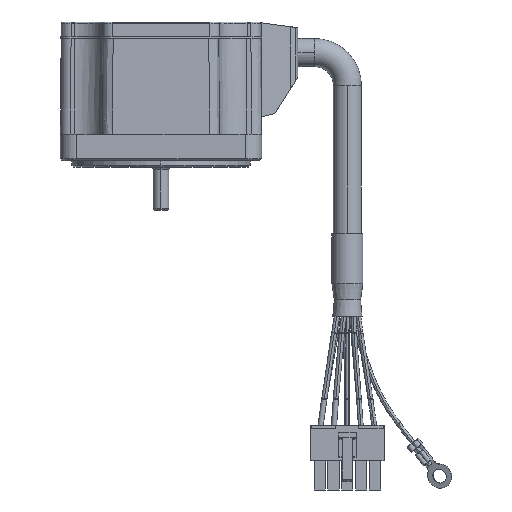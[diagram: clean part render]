
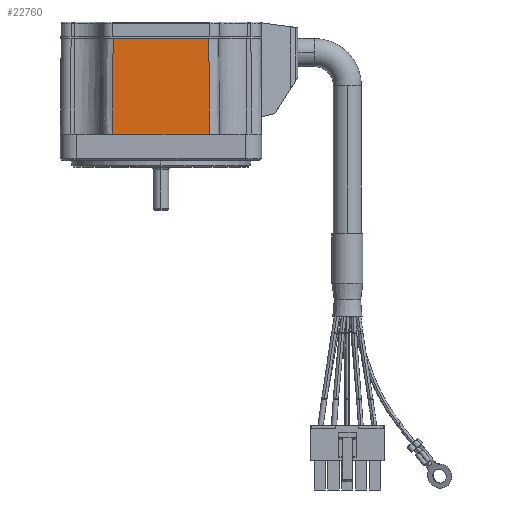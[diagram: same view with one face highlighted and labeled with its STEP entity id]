
A CAD part, left-side view. The second image highlights one B-rep face of the part: STEP entity #22760.
In plain terms, the highlighted planar face has unit normal (-1, 0, 0.009).
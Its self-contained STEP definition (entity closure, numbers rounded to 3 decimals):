
#816 = ORIENTED_EDGE ( 'NONE', *, *, #23066, .T. ) ;
#842 = AXIS2_PLACEMENT_3D ( 'NONE', #2024, #14972, #1603 ) ;
#1250 = EDGE_CURVE ( 'NONE', #24497, #6226, #5592, .T. ) ;
#1603 = DIRECTION ( 'NONE',  ( 0., 1., 0. ) ) ;
#2024 = CARTESIAN_POINT ( 'NONE',  ( -30.5, 14.697, 0. ) ) ;
#3412 = DIRECTION ( 'NONE',  ( 0.009, -0.006, 1. ) ) ;
#4283 = DIRECTION ( 'NONE',  ( 0., -1., 0. ) ) ;
#5592 = LINE ( 'NONE', #18949, #8482 ) ;
#6226 = VERTEX_POINT ( 'NONE', #19432 ) ;
#7350 = CARTESIAN_POINT ( 'NONE',  ( -30.25, -14.511, 29. ) ) ;
#7773 = EDGE_LOOP ( 'NONE', ( #816, #14036, #15509, #11423 ) ) ;
#7896 = CARTESIAN_POINT ( 'NONE',  ( -30.5, -14.697, 0. ) ) ;
#8482 = VECTOR ( 'NONE', #3412, 1000. ) ;
#8570 = CARTESIAN_POINT ( 'NONE',  ( -30.5, 14.697, 0. ) ) ;
#10110 = VECTOR ( 'NONE', #4283, 1000. ) ;
#11423 = ORIENTED_EDGE ( 'NONE', *, *, #1250, .F. ) ;
#11926 = B_SPLINE_CURVE_WITH_KNOTS ( 'NONE', 3,
 ( #28478, #24270, #17421, #26289 ),
 .UNSPECIFIED., .F., .F.,
 ( 4, 4 ),
 ( 0., 1. ),
 .UNSPECIFIED. ) ;
#13278 = LINE ( 'NONE', #24633, #10110 ) ;
#14036 = ORIENTED_EDGE ( 'NONE', *, *, #22815, .T. ) ;
#14355 = VERTEX_POINT ( 'NONE', #7350 ) ;
#14820 = FACE_OUTER_BOUND ( 'NONE', #7773, .T. ) ;
#14972 = DIRECTION ( 'NONE',  ( -1., 0., 0.009 ) ) ;
#15509 = ORIENTED_EDGE ( 'NONE', *, *, #23577, .F. ) ;
#15989 = CARTESIAN_POINT ( 'NONE',  ( -30.25, 14.511, 29. ) ) ;
#17421 = CARTESIAN_POINT ( 'NONE',  ( -30.333, -14.573, 19.333 ) ) ;
#17557 = PLANE ( 'NONE',  #842 ) ;
#18640 = VERTEX_POINT ( 'NONE', #7896 ) ;
#18949 = CARTESIAN_POINT ( 'NONE',  ( -30.5, 14.697, 0. ) ) ;
#19432 = CARTESIAN_POINT ( 'NONE',  ( -30.25, 14.511, 29. ) ) ;
#22760 = ADVANCED_FACE ( 'NONE', ( #14820 ), #17557, .T. ) ;
#22815 = EDGE_CURVE ( 'NONE', #18640, #14355, #11926, .T. ) ;
#23066 = EDGE_CURVE ( 'NONE', #24497, #18640, #13278, .T. ) ;
#23182 = VECTOR ( 'NONE', #26736, 1000. ) ;
#23577 = EDGE_CURVE ( 'NONE', #6226, #14355, #27028, .T. ) ;
#24270 = CARTESIAN_POINT ( 'NONE',  ( -30.417, -14.635, 9.667 ) ) ;
#24497 = VERTEX_POINT ( 'NONE', #8570 ) ;
#24633 = CARTESIAN_POINT ( 'NONE',  ( -30.5, 14.697, 0. ) ) ;
#26289 = CARTESIAN_POINT ( 'NONE',  ( -30.25, -14.511, 29. ) ) ;
#26736 = DIRECTION ( 'NONE',  ( 0., -1., 0. ) ) ;
#27028 = LINE ( 'NONE', #15989, #23182 ) ;
#28478 = CARTESIAN_POINT ( 'NONE',  ( -30.5, -14.697, 0. ) ) ;
